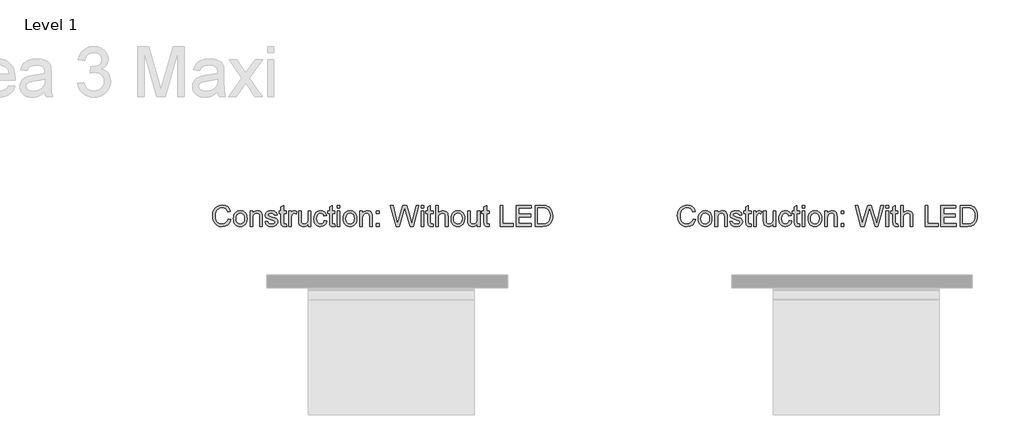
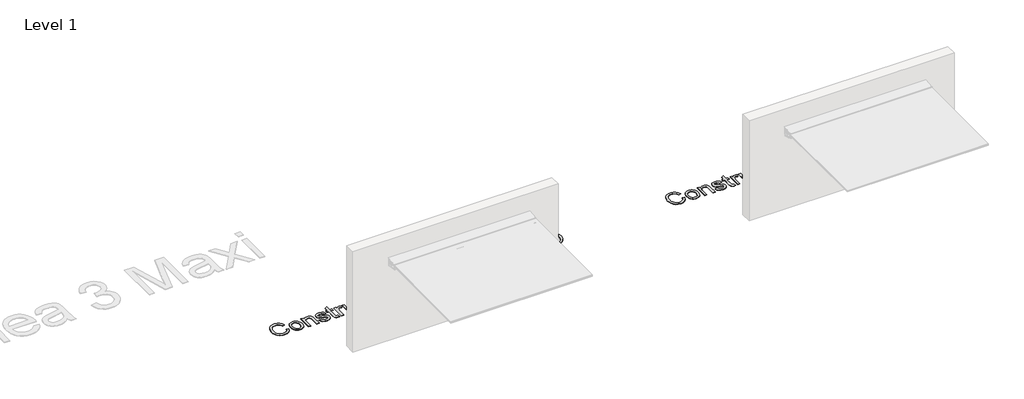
# One storey, part 7 of 7: 2 proxies.
"""IFC4 building model written with IfcOpenShell, lengths in millimetres."""

from ifc_helpers import new_model, si_unit, origin, origin_with_axes, place, context, project, spatial, polyline, outline, extrude, element, save

model = new_model("IFC4")

# Units and contexts
model_context = context("Model", 3, world=origin())
ifc_project = project(units=[si_unit("LENGTHUNIT", "METRE", prefix="MILLI")], contexts=[model_context])

# Site, building, storey
site = spatial("IfcSite", under=ifc_project)
building = spatial("IfcBuilding", under=site)
storey = spatial("IfcBuildingStorey", under=building, Name="Level 1", Elevation=0.0)

# Proxies
placement = place(None, origin())
element("IfcBuildingElementProxy", 1, Name="600mm Arial 2", ObjectType="600mm Arial 2", at=placement, inside=storey, context=model_context, shape_type="SweptSolid", body=[
    extrude(outline(polyline([(15617.5005788, 1388.7827589), (15648.8931757, 1380.689355), (15634.4078221, 1344.1080891), (15611.6757805, 1317.382995), (15581.8160252, 1301.0352389), (15545.9475307, 1295.5859868), (15509.5348774, 1299.7093308), (15480.6178197, 1312.0793629), (15458.4529295, 1332.2668874), (15442.2967786, 1359.8427086), (15432.4329426, 1392.2623095), (15429.1449972, 1426.9811728), (15432.8621382, 1463.6007597), (15444.0135612, 1495.2232829), (15462.0167864, 1520.844731), (15486.2893338, 1539.4610928), (15515.0761, 1550.7964568), (15546.621981, 1554.5749114), (15581.0419402, 1549.6851466), (15609.4991454, 1535.015852), (15631.1045484, 1511.4714043), (15644.9691011, 1479.9561801), (15613.5765042, 1472.4759128), (15602.6933285, 1495.3689028), (15587.8247645, 1511.0728655), (15568.7868713, 1520.1549522), (15545.3957077, 1523.1823145), (15518.4330232, 1519.8253913), (15496.2834614, 1509.7546217), (15479.4758527, 1494.0276664), (15468.5390276, 1473.7021861), (15462.5379525, 1450.7248899), (15460.5375942, 1427.0424864), (15462.9058345, 1398.0411225), (15470.0105555, 1372.9638331), (15482.1200046, 1352.7686444), (15499.5024288, 1338.4135824), (15520.341411, 1329.8373334), (15542.8205338, 1326.9785837), (15569.0244617, 1330.8720015), (15590.859791, 1342.5522549), (15607.3455029, 1361.8967164), (15617.5005788, 1388.7827589)])), origin_with_axes(), (0.0, 0.0, 1.0), 5.0),
    extrude(outline(polyline([(15680.2857726, 1391.7258149), (15681.9833947, 1415.6113198), (15687.0762611, 1436.1935511), (15695.5643717, 1453.4725085), (15707.4477266, 1467.4481922), (15732.6169864, 1482.7612803), (15762.7526532, 1487.865643), (15780.0718478, 1486.3117247), (15795.7317412, 1481.6499701), (15809.7323336, 1473.880379), (15822.0736249, 1463.0029515), (15832.1463106, 1449.3855695), (15839.3410861, 1433.396115), (15843.6579514, 1415.0345882), (15845.0969065, 1394.3009889), (15842.5523893, 1362.5864952), (15834.9188379, 1338.4442393), (15822.4185143, 1320.364372), (15805.2736805, 1306.8370445), (15784.9098792, 1298.3987512), (15762.7526532, 1295.5859868), (15745.1805398, 1297.1341569), (15729.3750264, 1301.7786671), (15715.3361129, 1309.5195174), (15703.0637995, 1320.3567078), (15693.0984127, 1334.1062974), (15685.9802793, 1350.5843451), (15681.7093993, 1369.7908509), (15680.2857726, 1391.7258149)]), holes=[polyline([(15711.6783695, 1391.7871286), (15715.3112042, 1363.3759086), (15726.2097084, 1343.1347347), (15742.611114, 1331.0176215), (15762.7526532, 1326.9785837), (15782.8022219, 1331.0406141), (15799.1729707, 1343.2267052), (15810.0714748, 1363.7361264), (15813.7043095, 1392.7681472), (15810.0484822, 1420.3516326), (15799.0810002, 1440.3168951), (15782.6872588, 1452.4340083), (15762.7526532, 1456.473046), (15742.611114, 1452.4493367), (15726.2097084, 1440.3782087), (15715.3112042, 1420.1830201), (15711.6783695, 1391.7871286)])]), origin_with_axes(), (0.0, 0.0, 1.0), 5.0),
    extrude(outline(polyline([(15880.413578, 1299.5100614), (15880.413578, 1483.9415683), (15911.8061749, 1483.9415683), (15911.8061749, 1458.1898287), (15922.7123432, 1471.1729974), (15935.8104751, 1480.4466894), (15951.1005705, 1486.0109046), (15968.5826295, 1487.865643), (15984.0566659, 1486.3711224), (15998.227787, 1481.8875605), (16010.0459961, 1474.9744447), (16018.4612967, 1466.1912621), (16027.8729444, 1443.1066669), (16029.5284134, 1412.7564023), (16029.5284134, 1299.5100614), (15998.1358165, 1299.5100614), (15998.1358165, 1408.5257593), (15994.5183102, 1436.30085), (15989.5135822, 1444.5705307), (15981.7344108, 1450.9854729), (15960.1826573, 1456.473046), (15941.7962217, 1453.3920343), (15926.1229159, 1444.1489992), (15915.3853602, 1426.291394), (15911.8061749, 1397.3666721), (15911.8061749, 1299.5100614), (15880.413578, 1299.5100614)])), origin_with_axes(), (0.0, 0.0, 1.0), 5.0),
    extrude(outline(polyline([(16060.9210103, 1354.447106), (16092.3136072, 1358.3711807), (16097.2646857, 1344.9434878), (16106.844946, 1335.0719876), (16121.1157018, 1329.0019347), (16140.1382666, 1326.9785837), (16158.9309052, 1328.8333221), (16172.1440002, 1334.3975373), (16179.9614926, 1342.4602844), (16182.5673234, 1351.8106184), (16179.9461642, 1359.8120518), (16172.0826865, 1365.9127616), (16139.7703846, 1374.8645568), (16092.4975482, 1390.2236301), (16080.5337192, 1397.9414878), (16071.8654997, 1408.1578773), (16066.6001886, 1420.2213411), (16064.8450849, 1433.4804213), (16070.4859422, 1456.8715849), (16085.8756723, 1474.7445185), (16105.8332705, 1484.0335388), (16132.8419404, 1487.865643), (16153.2747195, 1486.3251371), (16171.0403542, 1481.7036195), (16185.3264383, 1474.4532786), (16195.3205659, 1465.0263024), (16201.9424418, 1452.7252482), (16206.1117711, 1436.852673), (16174.7191741, 1432.9285983), (16170.7567785, 1442.8077628), (16162.9162935, 1450.249709), (16151.121077, 1454.9172118), (16135.294487, 1456.473046), (16117.2682692, 1454.9861896), (16105.2507907, 1450.5256204), (16098.4909591, 1444.0876855), (16096.2376818, 1436.668732), (16099.9778155, 1427.5329957), (16111.6887256, 1420.6045515), (16138.7280523, 1413.9213619), (16184.8052722, 1399.1447685), (16196.9760348, 1392.0783685), (16206.2037416, 1382.4061377), (16212.0208756, 1370.0974193), (16213.9599203, 1355.1215564), (16211.6836504, 1339.6398557), (16204.8548409, 1325.0778601), (16193.7340748, 1312.5775365), (16178.5819351, 1303.2808519), (16160.2798058, 1297.5097031), (16139.7090709, 1295.5859868), (16108.0558909, 1299.2954636), (16084.9559673, 1310.423894), (16069.5355804, 1328.8486505), (16060.9210103, 1354.447106)])), origin_with_axes(), (0.0, 0.0, 1.0), 5.0),
    extrude(outline(polyline([(16315.9858603, 1325.6909968), (16319.9099349, 1298.5903564), (16296.4268009, 1295.5859868), (16281.3589675, 1296.8889022), (16270.1232382, 1300.7976484), (16257.0021137, 1314.4705959), (16253.2006664, 1350.0938358), (16253.2006664, 1452.5489714), (16229.6562188, 1452.5489714), (16229.6562188, 1483.9415683), (16253.2006664, 1483.9415683), (16253.2006664, 1528.7618581), (16284.5932634, 1547.2172715), (16284.5932634, 1483.9415683), (16315.9858603, 1483.9415683), (16315.9858603, 1452.5489714), (16284.5932634, 1452.5489714), (16284.5932634, 1351.0135408), (16286.2487323, 1334.826733), (16291.6136781, 1329.0939052), (16302.3129128, 1326.9785837), (16315.9858603, 1325.6909968)])), origin_with_axes(), (0.0, 0.0, 1.0), 5.0),
    extrude(outline(polyline([(16347.3784572, 1299.5100614), (16347.3784572, 1483.9415683), (16374.8469795, 1483.9415683), (16374.8469795, 1456.656987), (16384.9943912, 1472.4759128), (16394.3447253, 1481.79559), (16413.9650983, 1487.865643), (16429.6000831, 1485.4437532), (16445.4803226, 1478.1780838), (16434.9956857, 1450.0351111), (16412.922766, 1456.473046), (16403.5494393, 1454.924876), (16395.1724598, 1450.2803658), (16383.8600884, 1433.1125393), (16378.7710541, 1396.4469672), (16378.7710541, 1299.5100614), (16347.3784572, 1299.5100614)])), origin_with_axes(), (0.0, 0.0, 1.0), 5.0),
    extrude(outline(polyline([(16582.8229341, 1299.5100614), (16582.8229341, 1331.2092267), (16571.4645775, 1315.6240592), (16558.2361541, 1304.4917968), (16543.1376639, 1297.8124393), (16526.1691069, 1295.5859868), (16510.8790114, 1297.1494853), (16496.6465768, 1301.8399807), (16484.7057403, 1308.8910523), (16476.2904397, 1317.5362792), (16466.9401056, 1340.6515312), (16465.1006957, 1369.8368362), (16465.1006957, 1483.9415683), (16496.4932926, 1483.9415683), (16496.4932926, 1384.6134296), (16498.3940162, 1352.6076961), (16502.9695485, 1341.931454), (16510.8100336, 1333.8150575), (16521.3943051, 1328.6877022), (16534.2011971, 1326.9785837), (16547.743853, 1328.7260232), (16560.4127893, 1333.9683416), (16570.8591051, 1342.2226939), (16577.7338999, 1353.0062349), (16581.5506756, 1367.7751642), (16582.8229341, 1387.9856813), (16582.8229341, 1483.9415683), (16614.215531, 1483.9415683), (16614.215531, 1299.5100614), (16582.8229341, 1299.5100614)])), origin_with_axes(), (0.0, 0.0, 1.0), 5.0),
    extrude(outline(polyline([(16775.1025903, 1366.2193299), (16806.4951872, 1362.2952553), (16797.7426614, 1334.3745447), (16781.2952705, 1313.2749794), (16758.7011847, 1300.008235), (16731.5085738, 1295.5859868), (16713.9019715, 1297.1284087), (16698.1156186, 1301.7556744), (16684.1495151, 1309.467784), (16672.0036611, 1320.2647373), (16662.172398, 1333.943433), (16655.1500672, 1350.3007694), (16649.5322026, 1391.0513646), (16651.9310998, 1418.9874036), (16659.1277913, 1443.1986374), (16671.2372403, 1462.7500326), (16688.3744099, 1476.7065558), (16708.8761669, 1485.0758712), (16731.0793782, 1487.865643), (16757.6052029, 1484.0335388), (16778.8120671, 1472.5372265), (16794.0255204, 1453.9898426), (16802.5711126, 1429.0045237), (16771.1785157, 1425.0804491), (16765.4840089, 1438.7763892), (16756.61652, 1448.59424), (16745.0665582, 1454.5033445), (16731.3246328, 1456.473046), (16711.0374737, 1452.5949567), (16694.9349722, 1440.9606886), (16684.4273427, 1420.9417767), (16680.9247995, 1391.9097559), (16684.3507006, 1362.4868605), (16694.6284038, 1342.3989707), (16710.4396654, 1330.8336805), (16730.4662415, 1326.9785837), (16746.7220272, 1329.3851451), (16760.0500853, 1336.6048293), (16769.7453087, 1348.8215772), (16775.1025903, 1366.2193299)])), origin_with_axes(), (0.0, 0.0, 1.0), 5.0),
    extrude(outline(polyline([(16900.672978, 1325.6909968), (16904.5970526, 1298.5903564), (16881.1139185, 1295.5859868), (16866.0460852, 1296.8889022), (16854.8103559, 1300.7976484), (16841.6892314, 1314.4705959), (16837.8877841, 1350.0938358), (16837.8877841, 1452.5489714), (16814.3433364, 1452.5489714), (16814.3433364, 1483.9415683), (16837.8877841, 1483.9415683), (16837.8877841, 1528.7618581), (16869.280381, 1547.2172715), (16869.280381, 1483.9415683), (16900.672978, 1483.9415683), (16900.672978, 1452.5489714), (16869.280381, 1452.5489714), (16869.280381, 1351.0135408), (16870.93585, 1334.826733), (16876.3007958, 1329.0939052), (16887.0000305, 1326.9785837), (16900.672978, 1325.6909968)])), origin_with_axes(), (0.0, 0.0, 1.0), 5.0),
    extrude(outline(polyline([(16932.0655749, 1519.2582399), (16932.0655749, 1550.6508368), (16963.4581718, 1550.6508368), (16963.4581718, 1519.2582399), (16932.0655749, 1519.2582399)])), origin_with_axes(), (0.0, 0.0, 1.0), 5.0),
    extrude(outline(polyline([(16932.0655749, 1299.5100614), (16932.0655749, 1483.9415683), (16963.4581718, 1483.9415683), (16963.4581718, 1299.5100614), (16932.0655749, 1299.5100614)])), origin_with_axes(), (0.0, 0.0, 1.0), 5.0),
    extrude(outline(polyline([(17002.698918, 1391.7258149), (17004.3965401, 1415.6113198), (17009.4894064, 1436.1935511), (17017.9775171, 1453.4725085), (17029.8608719, 1467.4481922), (17055.0301318, 1482.7612803), (17085.1657985, 1487.865643), (17102.4849931, 1486.3117247), (17118.1448866, 1481.6499701), (17132.145479, 1473.880379), (17144.4867703, 1463.0029515), (17154.5594559, 1449.3855695), (17161.7542314, 1433.396115), (17166.0710967, 1415.0345882), (17167.5100518, 1394.3009889), (17164.9655347, 1362.5864952), (17157.3319833, 1338.4442393), (17144.8316596, 1320.364372), (17127.6868258, 1306.8370445), (17107.3230245, 1298.3987512), (17085.1657985, 1295.5859868), (17067.5936851, 1297.1341569), (17051.7881717, 1301.7786671), (17037.7492583, 1309.5195174), (17025.4769448, 1320.3567078), (17015.5115581, 1334.1062974), (17008.3934247, 1350.5843451), (17004.1225446, 1369.7908509), (17002.698918, 1391.7258149)]), holes=[polyline([(17034.0915149, 1391.7871286), (17037.7243496, 1363.3759086), (17048.6228537, 1343.1347347), (17065.0242593, 1331.0176215), (17085.1657985, 1326.9785837), (17105.2153673, 1331.0406141), (17121.5861161, 1343.2267052), (17132.4846202, 1363.7361264), (17136.1174549, 1392.7681472), (17132.4616275, 1420.3516326), (17121.4941456, 1440.3168951), (17105.1004042, 1452.4340083), (17085.1657985, 1456.473046), (17065.0242593, 1452.4493367), (17048.6228537, 1440.3782087), (17037.7243496, 1420.1830201), (17034.0915149, 1391.7871286)])]), origin_with_axes(), (0.0, 0.0, 1.0), 5.0),
    extrude(outline(polyline([(17202.8267233, 1299.5100614), (17202.8267233, 1483.9415683), (17234.2193203, 1483.9415683), (17234.2193203, 1458.1898287), (17245.1254886, 1471.1729974), (17258.2236204, 1480.4466894), (17273.5137159, 1486.0109046), (17290.9957748, 1487.865643), (17306.4698113, 1486.3711224), (17320.6409323, 1481.8875605), (17332.4591414, 1474.9744447), (17340.874442, 1466.1912621), (17350.2860897, 1443.1066669), (17351.9415587, 1412.7564023), (17351.9415587, 1299.5100614), (17320.5489618, 1299.5100614), (17320.5489618, 1408.5257593), (17316.9314555, 1436.30085), (17311.9267275, 1444.5705307), (17304.1475562, 1450.9854729), (17282.5958026, 1456.473046), (17264.2093671, 1453.3920343), (17248.5360612, 1444.1489992), (17237.7985055, 1426.291394), (17234.2193203, 1397.3666721), (17234.2193203, 1299.5100614), (17202.8267233, 1299.5100614)])), origin_with_axes(), (0.0, 0.0, 1.0), 5.0),
    extrude(outline(polyline([(17402.9545287, 1299.5100614), (17402.9545287, 1330.9026584), (17434.3471256, 1330.9026584), (17434.3471256, 1299.5100614), (17402.9545287, 1299.5100614)])), origin_with_axes(), (0.0, 0.0, 1.0), 5.0),
    extrude(outline(polyline([(17402.9545287, 1452.5489714), (17402.9545287, 1483.9415683), (17434.3471256, 1483.9415683), (17434.3471256, 1452.5489714), (17402.9545287, 1452.5489714)])), origin_with_axes(), (0.0, 0.0, 1.0), 5.0),
    extrude(outline(polyline([(17640.1771019, 1299.5100614), (17571.6897372, 1550.6508368), (17604.0633527, 1550.6508368), (17643.7946082, 1385.5944483), (17656.0573414, 1334.642792), (17669.1784659, 1379.7083364), (17718.9651626, 1550.6508368), (17765.6248623, 1550.6508368), (17801.7999251, 1426.7359181), (17817.2969542, 1380.7506687), (17828.7166245, 1334.642792), (17840.6114756, 1384.1229203), (17880.6492994, 1550.6508368), (17913.0842287, 1550.6508368), (17844.6581776, 1299.5100614), (17811.0582887, 1299.5100614), (17750.7869551, 1493.2612456), (17742.3869829, 1520.3005722), (17732.9446784, 1487.7430156), (17678.0689474, 1299.5100614), (17640.1771019, 1299.5100614)])), origin_with_axes(), (0.0, 0.0, 1.0), 5.0),
    extrude(outline(polyline([(17940.552751, 1519.2582399), (17940.552751, 1550.6508368), (17971.9453479, 1550.6508368), (17971.9453479, 1519.2582399), (17940.552751, 1519.2582399)])), origin_with_axes(), (0.0, 0.0, 1.0), 5.0),
    extrude(outline(polyline([(17940.552751, 1299.5100614), (17940.552751, 1483.9415683), (17971.9453479, 1483.9415683), (17971.9453479, 1299.5100614), (17940.552751, 1299.5100614)])), origin_with_axes(), (0.0, 0.0, 1.0), 5.0),
    extrude(outline(polyline([(18085.7435118, 1325.6909968), (18089.6675864, 1298.5903564), (18066.1844523, 1295.5859868), (18051.116619, 1296.8889022), (18039.8808897, 1300.7976484), (18026.7597652, 1314.4705959), (18022.9583179, 1350.0938358), (18022.9583179, 1452.5489714), (17999.4138702, 1452.5489714), (17999.4138702, 1483.9415683), (18022.9583179, 1483.9415683), (18022.9583179, 1528.7618581), (18054.3509148, 1547.2172715), (18054.3509148, 1483.9415683), (18085.7435118, 1483.9415683), (18085.7435118, 1452.5489714), (18054.3509148, 1452.5489714), (18054.3509148, 1351.0135408), (18056.0063838, 1334.826733), (18061.3713296, 1329.0939052), (18072.0705643, 1326.9785837), (18085.7435118, 1325.6909968)])), origin_with_axes(), (0.0, 0.0, 1.0), 5.0),
    extrude(outline(polyline([(18117.1361087, 1299.5100614), (18117.1361087, 1550.6508368), (18148.5287056, 1550.6508368), (18148.5287056, 1458.312456), (18160.0595069, 1471.2419753), (18173.0081867, 1480.4773462), (18187.374745, 1486.0185688), (18203.1591819, 1487.865643), (18222.120433, 1485.8499562), (18238.4145398, 1479.8028959), (18251.2444243, 1470.199643), (18259.8130091, 1457.5153784), (18264.6414603, 1440.0869688), (18266.2509441, 1416.2512812), (18266.2509441, 1299.5100614), (18234.8583471, 1299.5100614), (18234.8583471, 1413.0016569), (18232.3598152, 1432.6526868), (18224.8642196, 1446.1110365), (18212.7854274, 1453.8825437), (18196.537306, 1456.473046), (18183.2705615, 1454.7256066), (18170.8162231, 1449.4832881), (18160.5001989, 1441.2519285), (18153.6483967, 1430.5373654), (18149.8086284, 1416.2972665), (18148.5287056, 1397.4892995), (18148.5287056, 1299.5100614), (18117.1361087, 1299.5100614)])), origin_with_axes(), (0.0, 0.0, 1.0), 5.0),
    extrude(outline(polyline([(18301.5676156, 1391.7258149), (18303.2652377, 1415.6113198), (18308.3581041, 1436.1935511), (18316.8462147, 1453.4725085), (18328.7295696, 1467.4481922), (18353.8988294, 1482.7612803), (18384.0344962, 1487.865643), (18401.3536907, 1486.3117247), (18417.0135842, 1481.6499701), (18431.0141766, 1473.880379), (18443.3554679, 1463.0029515), (18453.4281536, 1449.3855695), (18460.622929, 1433.396115), (18464.9397943, 1415.0345882), (18466.3787494, 1394.3009889), (18463.8342323, 1362.5864952), (18456.2006809, 1338.4442393), (18443.7003573, 1320.364372), (18426.5555235, 1306.8370445), (18406.1917222, 1298.3987512), (18384.0344962, 1295.5859868), (18366.4623827, 1297.1341569), (18350.6568693, 1301.7786671), (18336.6179559, 1309.5195174), (18324.3456425, 1320.3567078), (18314.3802557, 1334.1062974), (18307.2621223, 1350.5843451), (18302.9912423, 1369.7908509), (18301.5676156, 1391.7258149)]), holes=[polyline([(18332.9602125, 1391.7871286), (18336.5930472, 1363.3759086), (18347.4915513, 1343.1347347), (18363.8929569, 1331.0176215), (18384.0344962, 1326.9785837), (18404.0840649, 1331.0406141), (18420.4548137, 1343.2267052), (18431.3533178, 1363.7361264), (18434.9861525, 1392.7681472), (18431.3303252, 1420.3516326), (18420.3628432, 1440.3168951), (18403.9691018, 1452.4340083), (18384.0344962, 1456.473046), (18363.8929569, 1452.4493367), (18347.4915513, 1440.3782087), (18336.5930472, 1420.1830201), (18332.9602125, 1391.7871286)])]), origin_with_axes(), (0.0, 0.0, 1.0), 5.0),
    extrude(outline(polyline([(18619.4176594, 1299.5100614), (18619.4176594, 1331.2092267), (18608.0593028, 1315.6240592), (18594.8308794, 1304.4917968), (18579.7323892, 1297.8124393), (18562.7638322, 1295.5859868), (18547.4737367, 1297.1494853), (18533.2413021, 1301.8399807), (18521.3004656, 1308.8910523), (18512.885165, 1317.5362792), (18503.5348309, 1340.6515312), (18501.695421, 1369.8368362), (18501.695421, 1483.9415683), (18533.0880179, 1483.9415683), (18533.0880179, 1384.6134296), (18534.9887415, 1352.6076961), (18539.5642738, 1341.931454), (18547.4047589, 1333.8150575), (18557.9890304, 1328.6877022), (18570.7959224, 1326.9785837), (18584.3385783, 1328.7260232), (18597.0075145, 1333.9683416), (18607.4538304, 1342.2226939), (18614.3286252, 1353.0062349), (18618.1454009, 1367.7751642), (18619.4176594, 1387.9856813), (18619.4176594, 1483.9415683), (18650.8102563, 1483.9415683), (18650.8102563, 1299.5100614), (18619.4176594, 1299.5100614)])), origin_with_axes(), (0.0, 0.0, 1.0), 5.0),
    extrude(outline(polyline([(18760.6843456, 1325.6909968), (18764.6084202, 1298.5903564), (18741.1252862, 1295.5859868), (18726.0574528, 1296.8889022), (18714.8217235, 1300.7976484), (18701.700599, 1314.4705959), (18697.8991517, 1350.0938358), (18697.8991517, 1452.5489714), (18674.354704, 1452.5489714), (18674.354704, 1483.9415683), (18697.8991517, 1483.9415683), (18697.8991517, 1528.7618581), (18729.2917486, 1547.2172715), (18729.2917486, 1483.9415683), (18760.6843456, 1483.9415683), (18760.6843456, 1452.5489714), (18729.2917486, 1452.5489714), (18729.2917486, 1351.0135408), (18730.9472176, 1334.826733), (18736.3121634, 1329.0939052), (18747.0113981, 1326.9785837), (18760.6843456, 1325.6909968)])), origin_with_axes(), (0.0, 0.0, 1.0), 5.0),
    extrude(outline(polyline([(18894.1028825, 1299.5100614), (18894.1028825, 1550.6508368), (18925.4954794, 1550.6508368), (18925.4954794, 1330.9026584), (19051.0658671, 1330.9026584), (19051.0658671, 1299.5100614), (18894.1028825, 1299.5100614)])), origin_with_axes(), (0.0, 0.0, 1.0), 5.0),
    extrude(outline(polyline([(19086.3825386, 1299.5100614), (19086.3825386, 1550.6508368), (19266.8899709, 1550.6508368), (19266.8899709, 1519.2582399), (19117.7751356, 1519.2582399), (19117.7751356, 1444.7008222), (19259.0418217, 1444.7008222), (19259.0418217, 1413.3082253), (19117.7751356, 1413.3082253), (19117.7751356, 1330.9026584), (19270.8140455, 1330.9026584), (19270.8140455, 1299.5100614), (19086.3825386, 1299.5100614)])), origin_with_axes(), (0.0, 0.0, 1.0), 5.0),
    extrude(outline(polyline([(19317.9029409, 1299.5100614), (19317.9029409, 1550.6508368), (19404.5391508, 1550.6508368), (19449.3594405, 1547.0333305), (19469.3783524, 1540.058901), (19486.2702674, 1529.0684264), (19503.6373632, 1509.9385627), (19516.0073953, 1486.1488603), (19523.4110205, 1458.1591718), (19525.8788955, 1426.4293498), (19524.2080981, 1399.4743294), (19519.195706, 1375.7536049), (19511.5621546, 1355.5584162), (19502.0278795, 1339.1800032), (19479.0965685, 1316.4019764), (19449.083529, 1303.802018), (19408.7084801, 1299.5100614), (19317.9029409, 1299.5100614)]), holes=[polyline([(19349.2955379, 1330.9026584), (19404.8457191, 1330.9026584), (19445.2514249, 1335.4398696), (19468.550618, 1348.2544258), (19479.4567863, 1361.843067), (19487.6498249, 1379.4324249), (19492.7771802, 1401.0991416), (19494.4862986, 1426.9198591), (19491.1370396, 1461.1328846), (19481.0892626, 1486.394115), (19466.2436913, 1503.7458824), (19448.5010492, 1514.2305193), (19430.4441746, 1518.0013097), (19403.9873278, 1519.2582399), (19349.2955379, 1519.2582399), (19349.2955379, 1330.9026584)])]), origin_with_axes(), (0.0, 0.0, 1.0), 5.0),
])
element("IfcBuildingElementProxy", 2, Name="600mm Arial 2", ObjectType="600mm Arial 2", at=placement, inside=storey, context=model_context, shape_type="SweptSolid", body=[
    extrude(outline(polyline([(21217.5005788, 1388.7827589), (21248.8931757, 1380.689355), (21234.4078221, 1344.1080891), (21211.6757805, 1317.382995), (21181.8160252, 1301.0352389), (21145.9475307, 1295.5859868), (21109.5348774, 1299.7093308), (21080.6178197, 1312.0793629), (21058.4529295, 1332.2668874), (21042.2967786, 1359.8427086), (21032.4329426, 1392.2623095), (21029.1449972, 1426.9811728), (21032.8621382, 1463.6007597), (21044.0135612, 1495.2232829), (21062.0167864, 1520.844731), (21086.2893338, 1539.4610928), (21115.0761, 1550.7964568), (21146.621981, 1554.5749114), (21181.0419402, 1549.6851466), (21209.4991454, 1535.015852), (21231.1045484, 1511.4714043), (21244.9691011, 1479.9561801), (21213.5765042, 1472.4759128), (21202.6933285, 1495.3689028), (21187.8247645, 1511.0728655), (21168.7868713, 1520.1549522), (21145.3957077, 1523.1823145), (21118.4330232, 1519.8253913), (21096.2834614, 1509.7546217), (21079.4758527, 1494.0276664), (21068.5390276, 1473.7021861), (21062.5379525, 1450.7248899), (21060.5375942, 1427.0424864), (21062.9058345, 1398.0411225), (21070.0105555, 1372.9638331), (21082.1200046, 1352.7686444), (21099.5024288, 1338.4135824), (21120.341411, 1329.8373334), (21142.8205338, 1326.9785837), (21169.0244617, 1330.8720015), (21190.859791, 1342.5522549), (21207.3455029, 1361.8967164), (21217.5005788, 1388.7827589)])), origin_with_axes(), (0.0, 0.0, 1.0), 5.0),
    extrude(outline(polyline([(21280.2857726, 1391.7258149), (21281.9833947, 1415.6113198), (21287.0762611, 1436.1935511), (21295.5643717, 1453.4725085), (21307.4477266, 1467.4481922), (21332.6169864, 1482.7612803), (21362.7526532, 1487.865643), (21380.0718478, 1486.3117247), (21395.7317412, 1481.6499701), (21409.7323336, 1473.880379), (21422.0736249, 1463.0029515), (21432.1463106, 1449.3855695), (21439.3410861, 1433.396115), (21443.6579514, 1415.0345882), (21445.0969065, 1394.3009889), (21442.5523893, 1362.5864952), (21434.9188379, 1338.4442393), (21422.4185143, 1320.364372), (21405.2736805, 1306.8370445), (21384.9098792, 1298.3987512), (21362.7526532, 1295.5859868), (21345.1805398, 1297.1341569), (21329.3750264, 1301.7786671), (21315.3361129, 1309.5195174), (21303.0637995, 1320.3567078), (21293.0984127, 1334.1062974), (21285.9802793, 1350.5843451), (21281.7093993, 1369.7908509), (21280.2857726, 1391.7258149)]), holes=[polyline([(21311.6783695, 1391.7871286), (21315.3112042, 1363.3759086), (21326.2097084, 1343.1347347), (21342.611114, 1331.0176215), (21362.7526532, 1326.9785837), (21382.8022219, 1331.0406141), (21399.1729707, 1343.2267052), (21410.0714748, 1363.7361264), (21413.7043095, 1392.7681472), (21410.0484822, 1420.3516326), (21399.0810002, 1440.3168951), (21382.6872588, 1452.4340083), (21362.7526532, 1456.473046), (21342.611114, 1452.4493367), (21326.2097084, 1440.3782087), (21315.3112042, 1420.1830201), (21311.6783695, 1391.7871286)])]), origin_with_axes(), (0.0, 0.0, 1.0), 5.0),
    extrude(outline(polyline([(21480.413578, 1299.5100614), (21480.413578, 1483.9415683), (21511.8061749, 1483.9415683), (21511.8061749, 1458.1898287), (21522.7123432, 1471.1729974), (21535.8104751, 1480.4466894), (21551.1005705, 1486.0109046), (21568.5826295, 1487.865643), (21584.0566659, 1486.3711224), (21598.227787, 1481.8875605), (21610.0459961, 1474.9744447), (21618.4612967, 1466.1912621), (21627.8729444, 1443.1066669), (21629.5284134, 1412.7564023), (21629.5284134, 1299.5100614), (21598.1358165, 1299.5100614), (21598.1358165, 1408.5257593), (21594.5183102, 1436.30085), (21589.5135822, 1444.5705307), (21581.7344108, 1450.9854729), (21560.1826573, 1456.473046), (21541.7962217, 1453.3920343), (21526.1229159, 1444.1489992), (21515.3853602, 1426.291394), (21511.8061749, 1397.3666721), (21511.8061749, 1299.5100614), (21480.413578, 1299.5100614)])), origin_with_axes(), (0.0, 0.0, 1.0), 5.0),
    extrude(outline(polyline([(21660.9210103, 1354.447106), (21692.3136072, 1358.3711807), (21697.2646857, 1344.9434878), (21706.844946, 1335.0719876), (21721.1157018, 1329.0019347), (21740.1382666, 1326.9785837), (21758.9309052, 1328.8333221), (21772.1440002, 1334.3975373), (21779.9614926, 1342.4602844), (21782.5673234, 1351.8106184), (21779.9461642, 1359.8120518), (21772.0826865, 1365.9127616), (21739.7703846, 1374.8645568), (21692.4975482, 1390.2236301), (21680.5337192, 1397.9414878), (21671.8654997, 1408.1578773), (21666.6001886, 1420.2213411), (21664.8450849, 1433.4804213), (21670.4859422, 1456.8715849), (21685.8756723, 1474.7445185), (21705.8332705, 1484.0335388), (21732.8419404, 1487.865643), (21753.2747195, 1486.3251371), (21771.0403542, 1481.7036195), (21785.3264383, 1474.4532786), (21795.3205659, 1465.0263024), (21801.9424418, 1452.7252482), (21806.1117711, 1436.852673), (21774.7191741, 1432.9285983), (21770.7567785, 1442.8077628), (21762.9162935, 1450.249709), (21751.121077, 1454.9172118), (21735.294487, 1456.473046), (21717.2682692, 1454.9861896), (21705.2507907, 1450.5256204), (21698.4909591, 1444.0876855), (21696.2376818, 1436.668732), (21699.9778155, 1427.5329957), (21711.6887256, 1420.6045515), (21738.7280523, 1413.9213619), (21784.8052722, 1399.1447685), (21796.9760348, 1392.0783685), (21806.2037416, 1382.4061377), (21812.0208756, 1370.0974193), (21813.9599203, 1355.1215564), (21811.6836504, 1339.6398557), (21804.8548409, 1325.0778601), (21793.7340748, 1312.5775365), (21778.5819351, 1303.2808519), (21760.2798058, 1297.5097031), (21739.7090709, 1295.5859868), (21708.0558909, 1299.2954636), (21684.9559673, 1310.423894), (21669.5355804, 1328.8486505), (21660.9210103, 1354.447106)])), origin_with_axes(), (0.0, 0.0, 1.0), 5.0),
    extrude(outline(polyline([(21915.9858603, 1325.6909968), (21919.9099349, 1298.5903564), (21896.4268009, 1295.5859868), (21881.3589675, 1296.8889022), (21870.1232382, 1300.7976484), (21857.0021137, 1314.4705959), (21853.2006664, 1350.0938358), (21853.2006664, 1452.5489714), (21829.6562188, 1452.5489714), (21829.6562188, 1483.9415683), (21853.2006664, 1483.9415683), (21853.2006664, 1528.7618581), (21884.5932634, 1547.2172715), (21884.5932634, 1483.9415683), (21915.9858603, 1483.9415683), (21915.9858603, 1452.5489714), (21884.5932634, 1452.5489714), (21884.5932634, 1351.0135408), (21886.2487323, 1334.826733), (21891.6136781, 1329.0939052), (21902.3129128, 1326.9785837), (21915.9858603, 1325.6909968)])), origin_with_axes(), (0.0, 0.0, 1.0), 5.0),
    extrude(outline(polyline([(21947.3784572, 1299.5100614), (21947.3784572, 1483.9415683), (21974.8469795, 1483.9415683), (21974.8469795, 1456.656987), (21984.9943912, 1472.4759128), (21994.3447253, 1481.79559), (22013.9650983, 1487.865643), (22029.6000831, 1485.4437532), (22045.4803226, 1478.1780838), (22034.9956857, 1450.0351111), (22012.922766, 1456.473046), (22003.5494393, 1454.924876), (21995.1724598, 1450.2803658), (21983.8600884, 1433.1125393), (21978.7710541, 1396.4469672), (21978.7710541, 1299.5100614), (21947.3784572, 1299.5100614)])), origin_with_axes(), (0.0, 0.0, 1.0), 5.0),
    extrude(outline(polyline([(22182.8229341, 1299.5100614), (22182.8229341, 1331.2092267), (22171.4645775, 1315.6240592), (22158.2361541, 1304.4917968), (22143.1376639, 1297.8124393), (22126.1691069, 1295.5859868), (22110.8790114, 1297.1494853), (22096.6465768, 1301.8399807), (22084.7057403, 1308.8910523), (22076.2904397, 1317.5362792), (22066.9401056, 1340.6515312), (22065.1006957, 1369.8368362), (22065.1006957, 1483.9415683), (22096.4932926, 1483.9415683), (22096.4932926, 1384.6134296), (22098.3940162, 1352.6076961), (22102.9695485, 1341.931454), (22110.8100336, 1333.8150575), (22121.3943051, 1328.6877022), (22134.2011971, 1326.9785837), (22147.743853, 1328.7260232), (22160.4127893, 1333.9683416), (22170.8591051, 1342.2226939), (22177.7338999, 1353.0062349), (22181.5506756, 1367.7751642), (22182.8229341, 1387.9856813), (22182.8229341, 1483.9415683), (22214.215531, 1483.9415683), (22214.215531, 1299.5100614), (22182.8229341, 1299.5100614)])), origin_with_axes(), (0.0, 0.0, 1.0), 5.0),
    extrude(outline(polyline([(22375.1025903, 1366.2193299), (22406.4951872, 1362.2952553), (22397.7426614, 1334.3745447), (22381.2952705, 1313.2749794), (22358.7011847, 1300.008235), (22331.5085738, 1295.5859868), (22313.9019715, 1297.1284087), (22298.1156186, 1301.7556744), (22284.1495151, 1309.467784), (22272.0036611, 1320.2647373), (22262.172398, 1333.943433), (22255.1500672, 1350.3007694), (22249.5322026, 1391.0513646), (22251.9310998, 1418.9874036), (22259.1277913, 1443.1986374), (22271.2372403, 1462.7500326), (22288.3744099, 1476.7065558), (22308.8761669, 1485.0758712), (22331.0793782, 1487.865643), (22357.6052029, 1484.0335388), (22378.8120671, 1472.5372265), (22394.0255204, 1453.9898426), (22402.5711126, 1429.0045237), (22371.1785157, 1425.0804491), (22365.4840089, 1438.7763892), (22356.61652, 1448.59424), (22345.0665582, 1454.5033445), (22331.3246328, 1456.473046), (22311.0374737, 1452.5949567), (22294.9349722, 1440.9606886), (22284.4273427, 1420.9417767), (22280.9247995, 1391.9097559), (22284.3507006, 1362.4868605), (22294.6284038, 1342.3989707), (22310.4396654, 1330.8336805), (22330.4662415, 1326.9785837), (22346.7220272, 1329.3851451), (22360.0500853, 1336.6048293), (22369.7453087, 1348.8215772), (22375.1025903, 1366.2193299)])), origin_with_axes(), (0.0, 0.0, 1.0), 5.0),
    extrude(outline(polyline([(22500.672978, 1325.6909968), (22504.5970526, 1298.5903564), (22481.1139185, 1295.5859868), (22466.0460852, 1296.8889022), (22454.8103559, 1300.7976484), (22441.6892314, 1314.4705959), (22437.8877841, 1350.0938358), (22437.8877841, 1452.5489714), (22414.3433364, 1452.5489714), (22414.3433364, 1483.9415683), (22437.8877841, 1483.9415683), (22437.8877841, 1528.7618581), (22469.280381, 1547.2172715), (22469.280381, 1483.9415683), (22500.672978, 1483.9415683), (22500.672978, 1452.5489714), (22469.280381, 1452.5489714), (22469.280381, 1351.0135408), (22470.93585, 1334.826733), (22476.3007958, 1329.0939052), (22487.0000305, 1326.9785837), (22500.672978, 1325.6909968)])), origin_with_axes(), (0.0, 0.0, 1.0), 5.0),
    extrude(outline(polyline([(22532.0655749, 1519.2582399), (22532.0655749, 1550.6508368), (22563.4581718, 1550.6508368), (22563.4581718, 1519.2582399), (22532.0655749, 1519.2582399)])), origin_with_axes(), (0.0, 0.0, 1.0), 5.0),
    extrude(outline(polyline([(22532.0655749, 1299.5100614), (22532.0655749, 1483.9415683), (22563.4581718, 1483.9415683), (22563.4581718, 1299.5100614), (22532.0655749, 1299.5100614)])), origin_with_axes(), (0.0, 0.0, 1.0), 5.0),
    extrude(outline(polyline([(22602.698918, 1391.7258149), (22604.3965401, 1415.6113198), (22609.4894064, 1436.1935511), (22617.9775171, 1453.4725085), (22629.8608719, 1467.4481922), (22655.0301318, 1482.7612803), (22685.1657985, 1487.865643), (22702.4849931, 1486.3117247), (22718.1448866, 1481.6499701), (22732.145479, 1473.880379), (22744.4867703, 1463.0029515), (22754.5594559, 1449.3855695), (22761.7542314, 1433.396115), (22766.0710967, 1415.0345882), (22767.5100518, 1394.3009889), (22764.9655347, 1362.5864952), (22757.3319833, 1338.4442393), (22744.8316596, 1320.364372), (22727.6868258, 1306.8370445), (22707.3230245, 1298.3987512), (22685.1657985, 1295.5859868), (22667.5936851, 1297.1341569), (22651.7881717, 1301.7786671), (22637.7492583, 1309.5195174), (22625.4769448, 1320.3567078), (22615.5115581, 1334.1062974), (22608.3934247, 1350.5843451), (22604.1225446, 1369.7908509), (22602.698918, 1391.7258149)]), holes=[polyline([(22634.0915149, 1391.7871286), (22637.7243496, 1363.3759086), (22648.6228537, 1343.1347347), (22665.0242593, 1331.0176215), (22685.1657985, 1326.9785837), (22705.2153673, 1331.0406141), (22721.5861161, 1343.2267052), (22732.4846202, 1363.7361264), (22736.1174549, 1392.7681472), (22732.4616275, 1420.3516326), (22721.4941456, 1440.3168951), (22705.1004042, 1452.4340083), (22685.1657985, 1456.473046), (22665.0242593, 1452.4493367), (22648.6228537, 1440.3782087), (22637.7243496, 1420.1830201), (22634.0915149, 1391.7871286)])]), origin_with_axes(), (0.0, 0.0, 1.0), 5.0),
    extrude(outline(polyline([(22802.8267233, 1299.5100614), (22802.8267233, 1483.9415683), (22834.2193203, 1483.9415683), (22834.2193203, 1458.1898287), (22845.1254886, 1471.1729974), (22858.2236204, 1480.4466894), (22873.5137159, 1486.0109046), (22890.9957748, 1487.865643), (22906.4698113, 1486.3711224), (22920.6409323, 1481.8875605), (22932.4591414, 1474.9744447), (22940.874442, 1466.1912621), (22950.2860897, 1443.1066669), (22951.9415587, 1412.7564023), (22951.9415587, 1299.5100614), (22920.5489618, 1299.5100614), (22920.5489618, 1408.5257593), (22916.9314555, 1436.30085), (22911.9267275, 1444.5705307), (22904.1475562, 1450.9854729), (22882.5958026, 1456.473046), (22864.2093671, 1453.3920343), (22848.5360612, 1444.1489992), (22837.7985055, 1426.291394), (22834.2193203, 1397.3666721), (22834.2193203, 1299.5100614), (22802.8267233, 1299.5100614)])), origin_with_axes(), (0.0, 0.0, 1.0), 5.0),
    extrude(outline(polyline([(23002.9545287, 1299.5100614), (23002.9545287, 1330.9026584), (23034.3471256, 1330.9026584), (23034.3471256, 1299.5100614), (23002.9545287, 1299.5100614)])), origin_with_axes(), (0.0, 0.0, 1.0), 5.0),
    extrude(outline(polyline([(23002.9545287, 1452.5489714), (23002.9545287, 1483.9415683), (23034.3471256, 1483.9415683), (23034.3471256, 1452.5489714), (23002.9545287, 1452.5489714)])), origin_with_axes(), (0.0, 0.0, 1.0), 5.0),
    extrude(outline(polyline([(23240.1771019, 1299.5100614), (23171.6897372, 1550.6508368), (23204.0633527, 1550.6508368), (23243.7946082, 1385.5944483), (23256.0573414, 1334.642792), (23269.1784659, 1379.7083364), (23318.9651626, 1550.6508368), (23365.6248623, 1550.6508368), (23401.7999251, 1426.7359181), (23417.2969542, 1380.7506687), (23428.7166245, 1334.642792), (23440.6114756, 1384.1229203), (23480.6492994, 1550.6508368), (23513.0842287, 1550.6508368), (23444.6581776, 1299.5100614), (23411.0582887, 1299.5100614), (23350.7869551, 1493.2612456), (23342.3869829, 1520.3005722), (23332.9446784, 1487.7430156), (23278.0689474, 1299.5100614), (23240.1771019, 1299.5100614)])), origin_with_axes(), (0.0, 0.0, 1.0), 5.0),
    extrude(outline(polyline([(23540.552751, 1519.2582399), (23540.552751, 1550.6508368), (23571.9453479, 1550.6508368), (23571.9453479, 1519.2582399), (23540.552751, 1519.2582399)])), origin_with_axes(), (0.0, 0.0, 1.0), 5.0),
    extrude(outline(polyline([(23540.552751, 1299.5100614), (23540.552751, 1483.9415683), (23571.9453479, 1483.9415683), (23571.9453479, 1299.5100614), (23540.552751, 1299.5100614)])), origin_with_axes(), (0.0, 0.0, 1.0), 5.0),
    extrude(outline(polyline([(23685.7435118, 1325.6909968), (23689.6675864, 1298.5903564), (23666.1844523, 1295.5859868), (23651.116619, 1296.8889022), (23639.8808897, 1300.7976484), (23626.7597652, 1314.4705959), (23622.9583179, 1350.0938358), (23622.9583179, 1452.5489714), (23599.4138702, 1452.5489714), (23599.4138702, 1483.9415683), (23622.9583179, 1483.9415683), (23622.9583179, 1528.7618581), (23654.3509148, 1547.2172715), (23654.3509148, 1483.9415683), (23685.7435118, 1483.9415683), (23685.7435118, 1452.5489714), (23654.3509148, 1452.5489714), (23654.3509148, 1351.0135408), (23656.0063838, 1334.826733), (23661.3713296, 1329.0939052), (23672.0705643, 1326.9785837), (23685.7435118, 1325.6909968)])), origin_with_axes(), (0.0, 0.0, 1.0), 5.0),
    extrude(outline(polyline([(23717.1361087, 1299.5100614), (23717.1361087, 1550.6508368), (23748.5287056, 1550.6508368), (23748.5287056, 1458.312456), (23760.0595069, 1471.2419753), (23773.0081867, 1480.4773462), (23787.374745, 1486.0185688), (23803.1591819, 1487.865643), (23822.120433, 1485.8499562), (23838.4145398, 1479.8028959), (23851.2444243, 1470.199643), (23859.8130091, 1457.5153784), (23864.6414603, 1440.0869688), (23866.2509441, 1416.2512812), (23866.2509441, 1299.5100614), (23834.8583471, 1299.5100614), (23834.8583471, 1413.0016569), (23832.3598152, 1432.6526868), (23824.8642196, 1446.1110365), (23812.7854274, 1453.8825437), (23796.537306, 1456.473046), (23783.2705615, 1454.7256066), (23770.8162231, 1449.4832881), (23760.5001989, 1441.2519285), (23753.6483967, 1430.5373654), (23749.8086284, 1416.2972665), (23748.5287056, 1397.4892995), (23748.5287056, 1299.5100614), (23717.1361087, 1299.5100614)])), origin_with_axes(), (0.0, 0.0, 1.0), 5.0),
    extrude(outline(polyline([(24011.4417048, 1299.5100614), (24011.4417048, 1550.6508368), (24042.8343017, 1550.6508368), (24042.8343017, 1330.9026584), (24168.4046894, 1330.9026584), (24168.4046894, 1299.5100614), (24011.4417048, 1299.5100614)])), origin_with_axes(), (0.0, 0.0, 1.0), 5.0),
    extrude(outline(polyline([(24203.721361, 1299.5100614), (24203.721361, 1550.6508368), (24384.2287933, 1550.6508368), (24384.2287933, 1519.2582399), (24235.1139579, 1519.2582399), (24235.1139579, 1444.7008222), (24376.380644, 1444.7008222), (24376.380644, 1413.3082253), (24235.1139579, 1413.3082253), (24235.1139579, 1330.9026584), (24388.1528679, 1330.9026584), (24388.1528679, 1299.5100614), (24203.721361, 1299.5100614)])), origin_with_axes(), (0.0, 0.0, 1.0), 5.0),
    extrude(outline(polyline([(24435.2417633, 1299.5100614), (24435.2417633, 1550.6508368), (24521.8779731, 1550.6508368), (24566.6982629, 1547.0333305), (24586.7171748, 1540.058901), (24603.6090897, 1529.0684264), (24620.9761856, 1509.9385627), (24633.3462177, 1486.1488603), (24640.7498428, 1458.1591718), (24643.2177179, 1426.4293498), (24641.5469205, 1399.4743294), (24636.5345283, 1375.7536049), (24628.9009769, 1355.5584162), (24619.3667018, 1339.1800032), (24596.4353908, 1316.4019764), (24566.4223514, 1303.802018), (24526.0473024, 1299.5100614), (24435.2417633, 1299.5100614)]), holes=[polyline([(24466.6343602, 1330.9026584), (24522.1845415, 1330.9026584), (24562.5902473, 1335.4398696), (24585.8894403, 1348.2544258), (24596.7956086, 1361.843067), (24604.9886472, 1379.4324249), (24610.1160025, 1401.0991416), (24611.8251209, 1426.9198591), (24608.4758619, 1461.1328846), (24598.428085, 1486.394115), (24583.5825136, 1503.7458824), (24565.8398715, 1514.2305193), (24547.782997, 1518.0013097), (24521.3261501, 1519.2582399), (24466.6343602, 1519.2582399), (24466.6343602, 1330.9026584)])]), origin_with_axes(), (0.0, 0.0, 1.0), 5.0),
])

save(model, "model.ifc")
